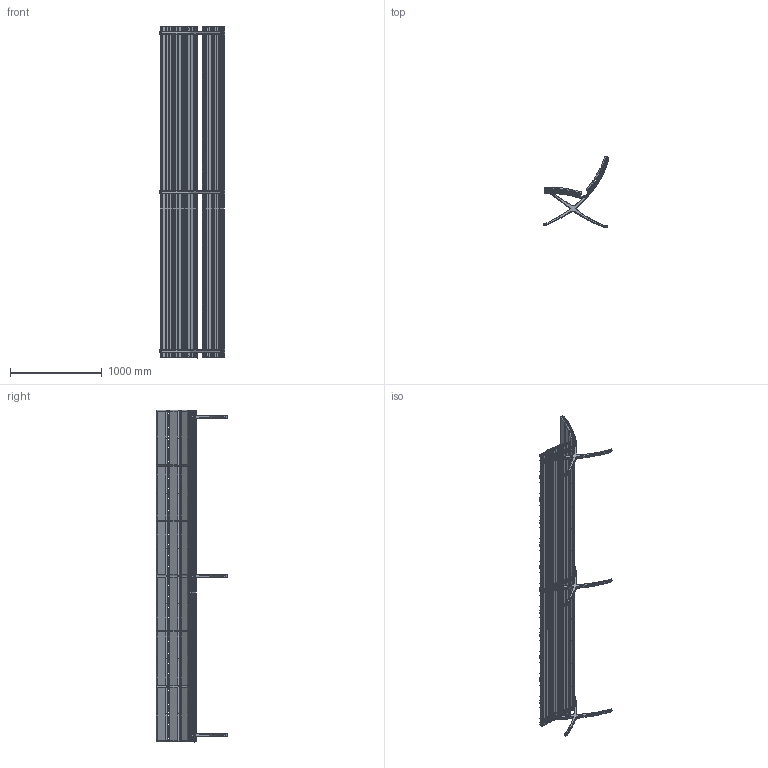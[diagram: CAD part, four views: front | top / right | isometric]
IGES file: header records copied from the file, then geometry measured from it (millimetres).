
Start section: SolidWorks IGES file using analytic representation for surfaces
Global section: file name: W:\OFICINA TÉCNICA 9001\2-MOBILIARIO E INSTALACIÓN\394- BENCH B\PLANOS TÉCNICOS\2D-3D\IGS\MI-394-05-05-F230113-BENCH B 6PLAZAS TAPIZADO.IGS; native system: SolidWorks 2011; preprocessor: SolidWorks 2011; author: otecnica01; date: 140707.135504; units: millimetre
Bounding box: 711.89 x 776.79 x 3612.01 mm (x, y, z)
Volume: 92405031.7 mm3; surface area: 19317952.4 mm2
Topology: 144 solids, 144 shells, 4182 faces, 10145 edges, 6201 vertices
Faces by surface type: revolution 2433, plane 1380, bspline 369
